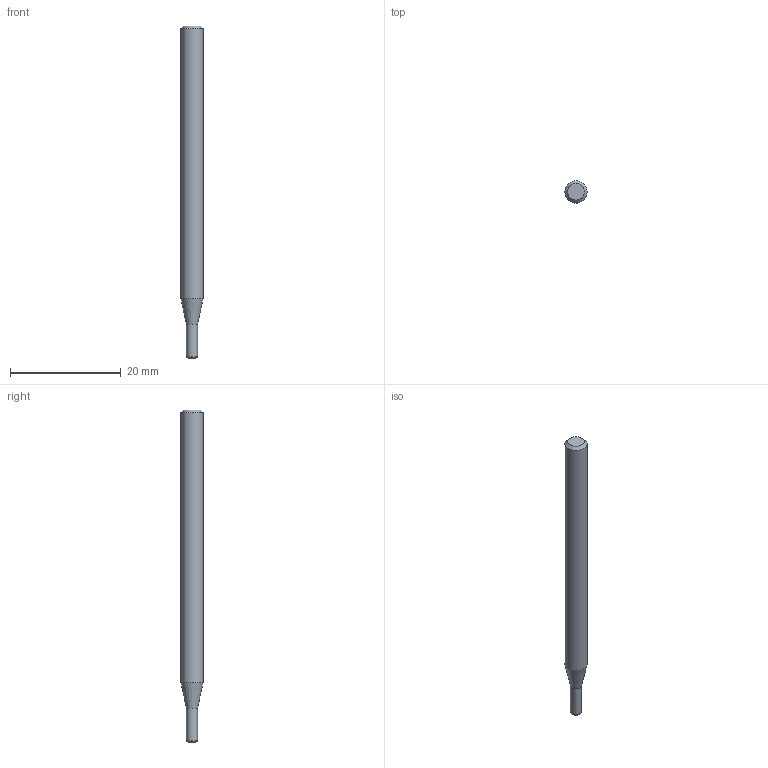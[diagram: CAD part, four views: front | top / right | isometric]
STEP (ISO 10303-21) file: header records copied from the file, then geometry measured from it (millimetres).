
FILE_DESCRIPTION((''),'2;1');
FILE_NAME('C:\Users\nsx150\AppData\Local\Temp\Mastercam 2021\03UJLO2QV3\TEMP.step','2023-09-20T09:29:23',(''),(''),'STEP Write','Mastercam 2021 ... CNC Software, Inc.','');
FILE_SCHEMA(('AUTOMOTIVE_DESIGN'));
Length unit declared in the file: millimetre
Products named in the file (1): None
Bounding box: 4 x 4 x 60 mm (x, y, z)
Volume: 671.2 mm3; surface area: 719.6 mm2
Topology: 2 solids, 2 shells, 9 faces, 12 edges, 7 vertices
Faces by surface type: plane 4, cylinder 2, cone 2, torus 1
Full cylindrical faces by diameter (mm): 2 x1, 4 x1
Entity records: 211 total; most frequent: DIRECTION 36, CARTESIAN_POINT 25, AXIS2_PLACEMENT_3D 18, ORIENTED_EDGE 14, EDGE_LOOP 14, STYLED_ITEM 12, ADVANCED_FACE 9, FACE_BOUND 8
